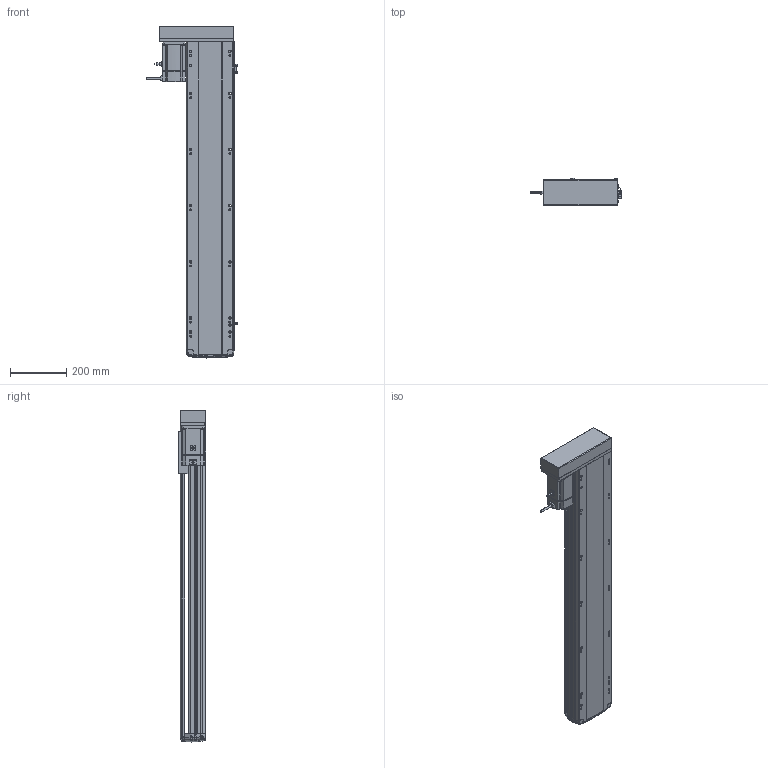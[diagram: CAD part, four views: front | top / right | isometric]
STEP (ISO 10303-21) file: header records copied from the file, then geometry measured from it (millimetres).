
FILE_DESCRIPTION (( 'STEP AP214' ), '1' );
FILE_NAME ('RTH17-XX-900-R-M75-C4.STEP', '2025-10-24T10:18:25', ( '' ), ( '' ), 'SwSTEP 2.0', 'SolidWorks 2018', '' );
FILE_SCHEMA (( 'AUTOMOTIVE_DESIGN' ));
Length unit declared in the file: millimetre
Products named in the file (10): N_M75^RTH17-XX-XX-R-M75-C4（方程式）; N_RTH17-L-008-P75电机安装板左转折^RTH17-XX-XX-R-M75-C4（方程式）; RTH17-XX-900-R-M75-C4; N_RTH17-M-011底座^RTH17-XX-XX-R-M75-C4（方程式）; N_RTH17-L-018盖子^RTH17-XX-XX-R-M75-C4（方程式）; N_RTH17-E-004丝杆螺母连接座^RTH17-XX-XX-R-M75-C4（方程式）; N_RTH17-GY-001P^RTH17-XX-XX-R-M75-C4（方程式）; N_RTH-L-012 感应片(外置)^RTH17-XX-XX-R-M75-C4（方程式）; N_OMRON EE-SX672 換覜ん^RTH17-XX-XX-R-M75-C4ㄗ源最宒ㄘ; N_RTH17-M-007上盖^RTH17-XX-XX-R-M75-C4（方程式）
Assembly tree (11 placements, depth 2):
  RTH17-XX-900-R-M75-C4
    N_RTH17-M-011底座^RTH17-XX-XX-R-M75-C4（方程式）
    N_RTH17-M-007上盖^RTH17-XX-XX-R-M75-C4（方程式）
    N_M75^RTH17-XX-XX-R-M75-C4（方程式）
    N_OMRON EE-SX672 換覜ん^RTH17-XX-XX-R-M75-C4ㄗ源最宒ㄘ  x3
    N_RTH-L-012 感应片(外置)^RTH17-XX-XX-R-M75-C4（方程式）
    N_RTH17-L-008-P75电机安装板左转折^RTH17-XX-XX-R-M75-C4（方程式）
    N_RTH17-L-018盖子^RTH17-XX-XX-R-M75-C4（方程式）
    N_RTH17-E-004丝杆螺母连接座^RTH17-XX-XX-R-M75-C4（方程式）
    N_RTH17-GY-001P^RTH17-XX-XX-R-M75-C4（方程式）
Bounding box: 326.2 x 97 x 1182.99 mm (x, y, z)
Volume: 10560994.1 mm3; surface area: 1325448.1 mm2
Topology: 13 solids, 15 shells, 1773 faces, 4889 edges, 3166 vertices
Faces by surface type: plane 835, cylinder 524, bspline 377, cone 28, torus 9
Entity records: 51993 total; most frequent: CARTESIAN_POINT 20749, ORIENTED_EDGE 6802, DIRECTION 5653, EDGE_CURVE 3405, VERTEX_POINT 2202, AXIS2_PLACEMENT_3D 1909, LINE 1835, VECTOR 1835
